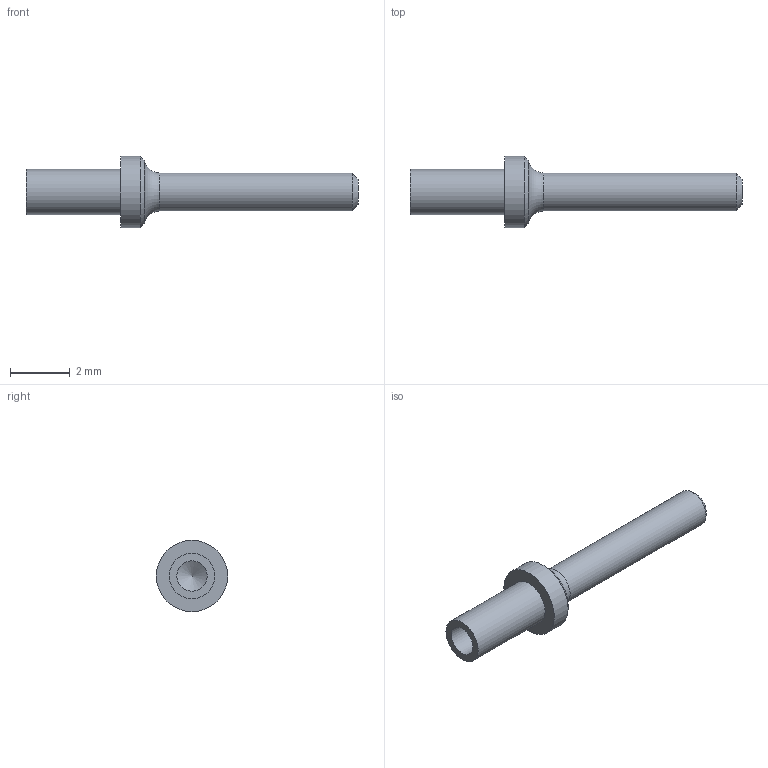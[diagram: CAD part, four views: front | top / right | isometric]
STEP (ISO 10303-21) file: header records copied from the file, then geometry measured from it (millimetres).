
FILE_DESCRIPTION(/* description */ (''),/* implementation_level */ '2;1');
FILE_NAME(/* name */ 'Z:\STEP folder\120-1133-03.ipt.stp',/* time_stamp */ '2016-12-07T10:27:12+00:00',/* author */ ('Paul Karlsons'),/* organization */ (''),/* preprocessor_version */ 'ST-DEVELOPER v15.2',/* originating_system */ 'Autodesk Inventor 2014',/* authorisation */ '');
FILE_SCHEMA (('CONFIG_CONTROL_DESIGN','AUTOMOTIVE_DESIGN { 1 0 10303 214 3 1 1 }'));
Length unit declared in the file: millimetre
Products named in the file (1): 120-1133-03
Bounding box: 11.12 x 2.39 x 2.39 mm (x, y, z)
Volume: 17 mm3; surface area: 62.7 mm2
Topology: 1 solids, 1 shells, 11 faces, 20 edges, 12 vertices
Faces by surface type: cylinder 4, cone 3, plane 3, torus 1
Full cylindrical faces by diameter (mm): 1.016 x1, 1.27 x1, 1.524 x1, 2.388 x1
Entity records: 235 total; most frequent: DIRECTION 44, CARTESIAN_POINT 32, AXIS2_PLACEMENT_3D 22, EDGE_LOOP 20, ORIENTED_EDGE 20, ADVANCED_FACE 11, FACE_BOUND 10, FACE_OUTER_BOUND 10
